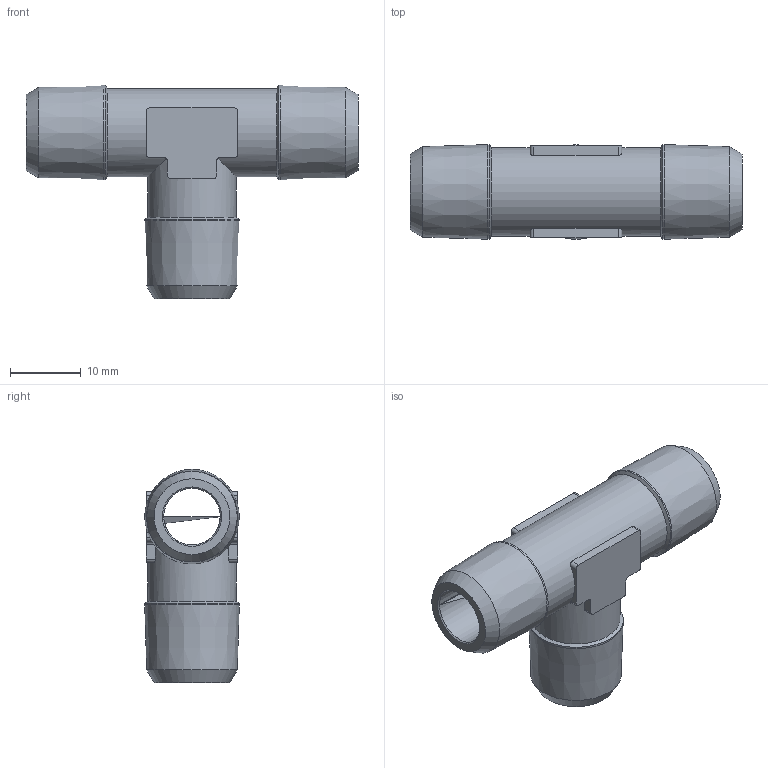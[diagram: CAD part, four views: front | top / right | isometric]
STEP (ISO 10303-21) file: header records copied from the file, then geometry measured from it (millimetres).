
FILE_DESCRIPTION(/* description */ (''),/* implementation_level */ '2;1');
FILE_NAME(/* name */ '40104_116_R14_29.09.16',/* time_stamp */ '2016-09-29T09:38:12+02:00',/* author */ (''),/* organization */ (''),/* preprocessor_version */ 'ST-DEVELOPER v16.5',/* originating_system */ 'HiCAD 2016 2101.0 Build 254',/* authorisation */ '');
FILE_SCHEMA (('AUTOMOTIVE_DESIGN { 1 0 10303 214 1 1 1 1 }'));
Length unit declared in the file: millimetre
Products named in the file (2): Root; 40104
Assembly tree (1 placements, depth 2):
  Root
    40104
Bounding box: 47 x 13.39 x 30.19 mm (x, y, z)
Volume: 5030.8 mm3; surface area: 4391.9 mm2
Topology: 1 solids, 1 shells, 56 faces, 153 edges, 99 vertices
Faces by surface type: cylinder 23, plane 21, cone 12
Full cylindrical faces by diameter (mm): 8 x2, 12.5 x2, 13.388 x3
Entity records: 5569 total; most frequent: CARTESIAN_POINT 3009, DIRECTION 268, PRESENTATION_STYLE_ASSIGNMENT 251, COLOUR_RGB 251, DRAUGHTING_PRE_DEFINED_CURVE_FONT 250, CURVE_STYLE 250, OVER_RIDING_STYLED_ITEM 250, ORIENTED_EDGE 250
